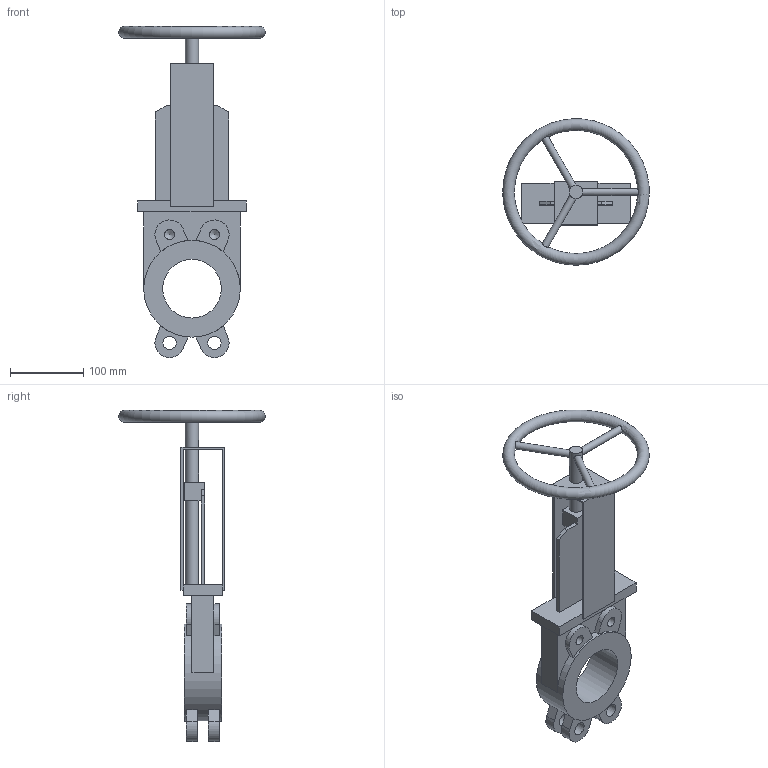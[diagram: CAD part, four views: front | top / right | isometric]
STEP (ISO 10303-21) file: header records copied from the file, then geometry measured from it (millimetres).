
FILE_DESCRIPTION(('STEP AP203'), '1');
FILE_NAME('Çàäâèæêà øèáåðíàÿ ìåæôëàíöåâàÿ K21GV DN80', '', ('UNSPECIFIED'), ('UNSPECIFIED'), 'ASCON STEP Converter 1.6', 'ASCON Math Kernel', '');
FILE_SCHEMA(('CONFIG_CONTROL_DESIGN'));
Length unit declared in the file: millimetre
Bounding box: 199.98 x 199.86 x 451.89 mm (x, y, z)
Volume: 1210007.3 mm3; surface area: 233402.7 mm2
Topology: 1 solids, 1 shells, 93 faces, 252 edges, 165 vertices
Faces by surface type: plane 64, cylinder 24, cone 4, torus 1
Full cylindrical faces by diameter (mm): 10 x3, 13.835 x4, 18 x7, 80 x1, 132 x1
Entity records: 4750 total; most frequent: CARTESIAN_POINT 1665, DIRECTION 466, ORIENTED_EDGE 448, EDGE_CURVE 224, VERTEX_POINT 160, AXIS2_PLACEMENT_3D 156, LINE 154, VECTOR 154
